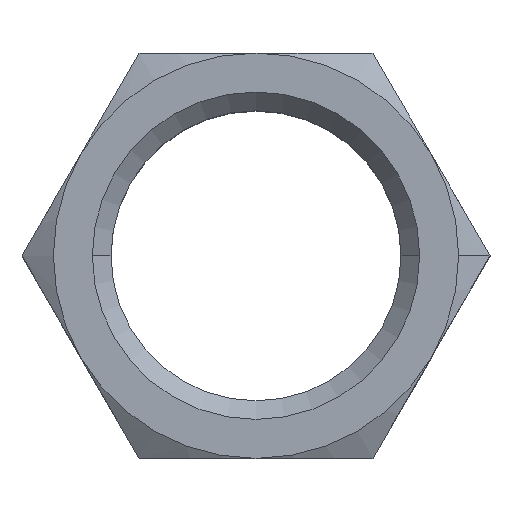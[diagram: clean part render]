
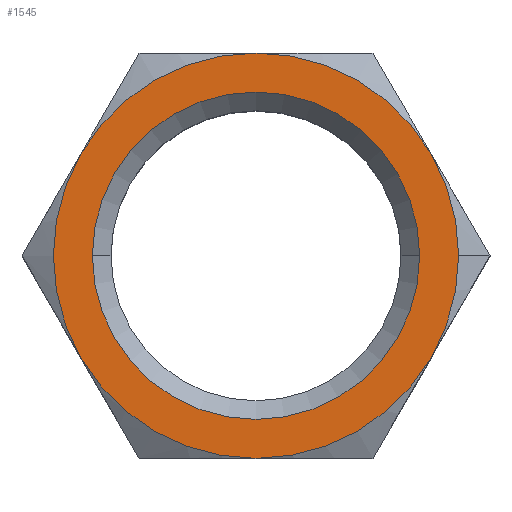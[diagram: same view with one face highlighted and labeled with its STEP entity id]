
A CAD part, top view. The second image highlights one B-rep face of the part: STEP entity #1545.
In plain terms, the highlighted planar face has unit normal (0, 0, 1) as drawn and (1, 0, 0) by its records, which use the part's own axes.
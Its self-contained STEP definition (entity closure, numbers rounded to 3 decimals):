
#8 = VERTEX_POINT ( 'NONE', #903 ) ;
#15 = DIRECTION ( 'NONE',  ( 1., 0., 0. ) ) ;
#36 = DIRECTION ( 'NONE',  ( 0., 0., -1. ) ) ;
#56 = DIRECTION ( 'NONE',  ( 0., 0., 1. ) ) ;
#67 = EDGE_LOOP ( 'NONE', ( #349, #1254 ) ) ;
#80 = AXIS2_PLACEMENT_3D ( 'NONE', #1536, #1302, #957 ) ;
#109 = ORIENTED_EDGE ( 'NONE', *, *, #983, .F. ) ;
#120 = CARTESIAN_POINT ( 'NONE',  ( 23., 0., 0. ) ) ;
#133 = EDGE_CURVE ( 'NONE', #1562, #1507, #1558, .T. ) ;
#136 = AXIS2_PLACEMENT_3D ( 'NONE', #958, #839, #594 ) ;
#140 = CIRCLE ( 'NONE', #136, 13. ) ;
#175 = PLANE ( 'NONE',  #1283 ) ;
#180 = CARTESIAN_POINT ( 'NONE',  ( 23., 6.5, -11.258 ) ) ;
#190 = CARTESIAN_POINT ( 'NONE',  ( 23., 0., 0. ) ) ;
#238 = EDGE_LOOP ( 'NONE', ( #109, #448, #420, #1181, #501, #814, #559 ) ) ;
#242 = VERTEX_POINT ( 'NONE', #1098 ) ;
#261 = CIRCLE ( 'NONE', #322, 10.5 ) ;
#273 = CARTESIAN_POINT ( 'NONE',  ( 23., 0., 10.5 ) ) ;
#284 = DIRECTION ( 'NONE',  ( 0., 0., 1. ) ) ;
#287 = CARTESIAN_POINT ( 'NONE',  ( 23., -13., -7.506 ) ) ;
#295 = VERTEX_POINT ( 'NONE', #925 ) ;
#316 = EDGE_CURVE ( 'NONE', #1507, #242, #605, .T. ) ;
#322 = AXIS2_PLACEMENT_3D ( 'NONE', #1470, #1011, #1246 ) ;
#327 = DIRECTION ( 'NONE',  ( 0., 0., 1. ) ) ;
#349 = ORIENTED_EDGE ( 'NONE', *, *, #1332, .T. ) ;
#367 = DIRECTION ( 'NONE',  ( 0., 0., 1. ) ) ;
#382 = CARTESIAN_POINT ( 'NONE',  ( 23., -13., 0. ) ) ;
#420 = ORIENTED_EDGE ( 'NONE', *, *, #1178, .F. ) ;
#448 = ORIENTED_EDGE ( 'NONE', *, *, #712, .F. ) ;
#455 = FACE_OUTER_BOUND ( 'NONE', #238, .T. ) ;
#501 = ORIENTED_EDGE ( 'NONE', *, *, #316, .F. ) ;
#511 = CARTESIAN_POINT ( 'NONE',  ( 23., 0., 0. ) ) ;
#530 = CARTESIAN_POINT ( 'NONE',  ( 23., 0., 0. ) ) ;
#546 = DIRECTION ( 'NONE',  ( -1., 0., 0. ) ) ;
#559 = ORIENTED_EDGE ( 'NONE', *, *, #1379, .T. ) ;
#567 = DIRECTION ( 'NONE',  ( -1., 0., 0. ) ) ;
#576 = CARTESIAN_POINT ( 'NONE',  ( 23., 0., 0. ) ) ;
#594 = DIRECTION ( 'NONE',  ( 0., 0., 1. ) ) ;
#605 = CIRCLE ( 'NONE', #1134, 13. ) ;
#622 = DIRECTION ( 'NONE',  ( -1., 0., 0. ) ) ;
#628 = EDGE_CURVE ( 'NONE', #1344, #1271, #989, .T. ) ;
#675 = CIRCLE ( 'NONE', #80, 13. ) ;
#712 = EDGE_CURVE ( 'NONE', #1324, #8, #747, .T. ) ;
#732 = EDGE_CURVE ( 'NONE', #242, #1468, #675, .T. ) ;
#747 = CIRCLE ( 'NONE', #1012, 13. ) ;
#801 = DIRECTION ( 'NONE',  ( 0., 0., 1. ) ) ;
#814 = ORIENTED_EDGE ( 'NONE', *, *, #133, .F. ) ;
#821 = CARTESIAN_POINT ( 'NONE',  ( 23., 0., 0. ) ) ;
#839 = DIRECTION ( 'NONE',  ( -1., 0., 0. ) ) ;
#850 = CARTESIAN_POINT ( 'NONE',  ( 23., -6.5, 11.258 ) ) ;
#867 = FACE_BOUND ( 'NONE', #67, .T. ) ;
#903 = CARTESIAN_POINT ( 'NONE',  ( 23., 6.5, 11.258 ) ) ;
#925 = CARTESIAN_POINT ( 'NONE',  ( 23., 13., 0. ) ) ;
#957 = DIRECTION ( 'NONE',  ( 0., 0., 1. ) ) ;
#958 = CARTESIAN_POINT ( 'NONE',  ( 23., 0., 0. ) ) ;
#983 = EDGE_CURVE ( 'NONE', #8, #295, #140, .T. ) ;
#989 = CIRCLE ( 'NONE', #1365, 10.5 ) ;
#1008 = CARTESIAN_POINT ( 'NONE',  ( 23., 0., -13. ) ) ;
#1011 = DIRECTION ( 'NONE',  ( -1., 0., 0. ) ) ;
#1012 = AXIS2_PLACEMENT_3D ( 'NONE', #821, #1209, #801 ) ;
#1013 = AXIS2_PLACEMENT_3D ( 'NONE', #511, #15, #36 ) ;
#1047 = AXIS2_PLACEMENT_3D ( 'NONE', #120, #622, #367 ) ;
#1055 = CIRCLE ( 'NONE', #1013, 13. ) ;
#1098 = CARTESIAN_POINT ( 'NONE',  ( 23., -6.5, -11.258 ) ) ;
#1104 = AXIS2_PLACEMENT_3D ( 'NONE', #576, #1313, #1182 ) ;
#1134 = AXIS2_PLACEMENT_3D ( 'NONE', #190, #567, #327 ) ;
#1138 = CIRCLE ( 'NONE', #1047, 13. ) ;
#1178 = EDGE_CURVE ( 'NONE', #1468, #1324, #1138, .T. ) ;
#1181 = ORIENTED_EDGE ( 'NONE', *, *, #732, .F. ) ;
#1182 = DIRECTION ( 'NONE',  ( 0., 0., 1. ) ) ;
#1209 = DIRECTION ( 'NONE',  ( -1., 0., 0. ) ) ;
#1246 = DIRECTION ( 'NONE',  ( 0., 0., 1. ) ) ;
#1254 = ORIENTED_EDGE ( 'NONE', *, *, #628, .T. ) ;
#1271 = VERTEX_POINT ( 'NONE', #1341 ) ;
#1283 = AXIS2_PLACEMENT_3D ( 'NONE', #287, #546, #56 ) ;
#1302 = DIRECTION ( 'NONE',  ( -1., 0., 0. ) ) ;
#1313 = DIRECTION ( 'NONE',  ( -1., 0., 0. ) ) ;
#1324 = VERTEX_POINT ( 'NONE', #850 ) ;
#1332 = EDGE_CURVE ( 'NONE', #1271, #1344, #261, .T. ) ;
#1341 = CARTESIAN_POINT ( 'NONE',  ( 23., 0., -10.5 ) ) ;
#1344 = VERTEX_POINT ( 'NONE', #273 ) ;
#1365 = AXIS2_PLACEMENT_3D ( 'NONE', #530, #1390, #284 ) ;
#1379 = EDGE_CURVE ( 'NONE', #1562, #295, #1055, .T. ) ;
#1390 = DIRECTION ( 'NONE',  ( -1., 0., 0. ) ) ;
#1468 = VERTEX_POINT ( 'NONE', #382 ) ;
#1470 = CARTESIAN_POINT ( 'NONE',  ( 23., 0., 0. ) ) ;
#1507 = VERTEX_POINT ( 'NONE', #1008 ) ;
#1536 = CARTESIAN_POINT ( 'NONE',  ( 23., 0., 0. ) ) ;
#1545 = ADVANCED_FACE ( 'NONE', ( #867, #455 ), #175, .F. ) ;
#1558 = CIRCLE ( 'NONE', #1104, 13. ) ;
#1562 = VERTEX_POINT ( 'NONE', #180 ) ;
